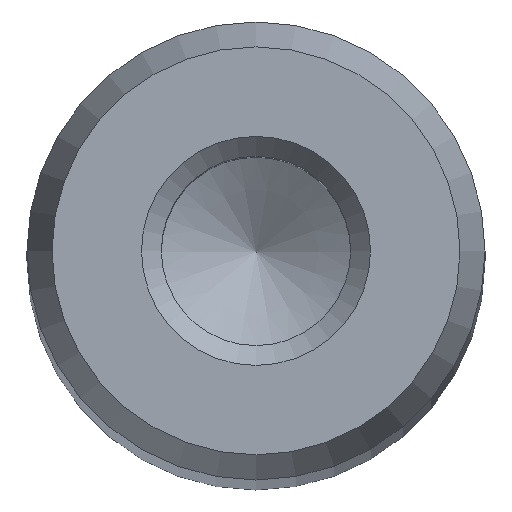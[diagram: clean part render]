
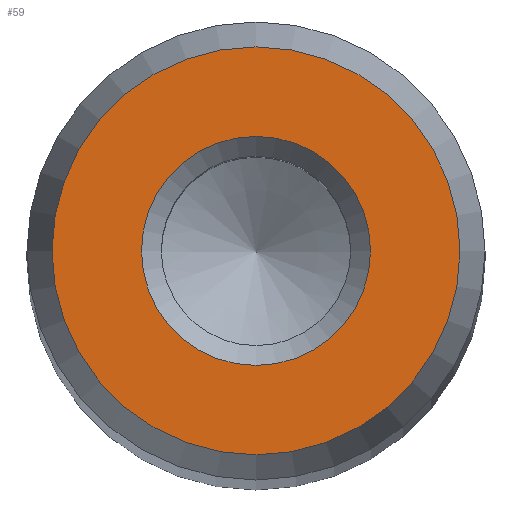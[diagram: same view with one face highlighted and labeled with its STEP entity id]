
A CAD part, top view. The second image highlights one B-rep face of the part: STEP entity #59.
In plain terms, the highlighted planar face has unit normal (0, 0, 1).
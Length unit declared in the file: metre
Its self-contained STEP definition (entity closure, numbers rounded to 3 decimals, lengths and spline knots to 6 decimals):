
#59 = ADVANCED_FACE( '', ( #124, #125 ), #126, .T. );
#124 = FACE_OUTER_BOUND( '', #183, .T. );
#125 = FACE_BOUND( '', #184, .T. );
#126 = PLANE( '', #185 );
#183 = EDGE_LOOP( '', ( #258 ) );
#184 = EDGE_LOOP( '', ( #259 ) );
#185 = AXIS2_PLACEMENT_3D( '', #260, #261, #262 );
#258 = ORIENTED_EDGE( '', *, *, #292, .T. );
#259 = ORIENTED_EDGE( '', *, *, #284, .T. );
#260 = CARTESIAN_POINT( '', ( 0., 0., 0.127 ) );
#261 = DIRECTION( '', ( 0., 0., 1. ) );
#262 = DIRECTION( '', ( 1., 0., 0. ) );
#284 = EDGE_CURVE( '', #320, #320, #321, .T. );
#292 = EDGE_CURVE( '', #329, #329, #330, .T. );
#320 = VERTEX_POINT( '', #357 );
#321 = CIRCLE( '', #358, 0.0025 );
#329 = VERTEX_POINT( '', #366 );
#330 = CIRCLE( '', #367, 0.004454 );
#357 = CARTESIAN_POINT( '', ( 0.0025, 0., 0.127 ) );
#358 = AXIS2_PLACEMENT_3D( '', #397, #398, #399 );
#366 = CARTESIAN_POINT( '', ( 0.004454, 0., 0.127 ) );
#367 = AXIS2_PLACEMENT_3D( '', #403, #404, #405 );
#397 = CARTESIAN_POINT( '', ( 0., 0., 0.127 ) );
#398 = DIRECTION( '', ( 0., 0., -1. ) );
#399 = DIRECTION( '', ( 1., 0., 0. ) );
#403 = CARTESIAN_POINT( '', ( 0., 0., 0.127 ) );
#404 = DIRECTION( '', ( 0., 0., 1. ) );
#405 = DIRECTION( '', ( 1., 0., 0. ) );
